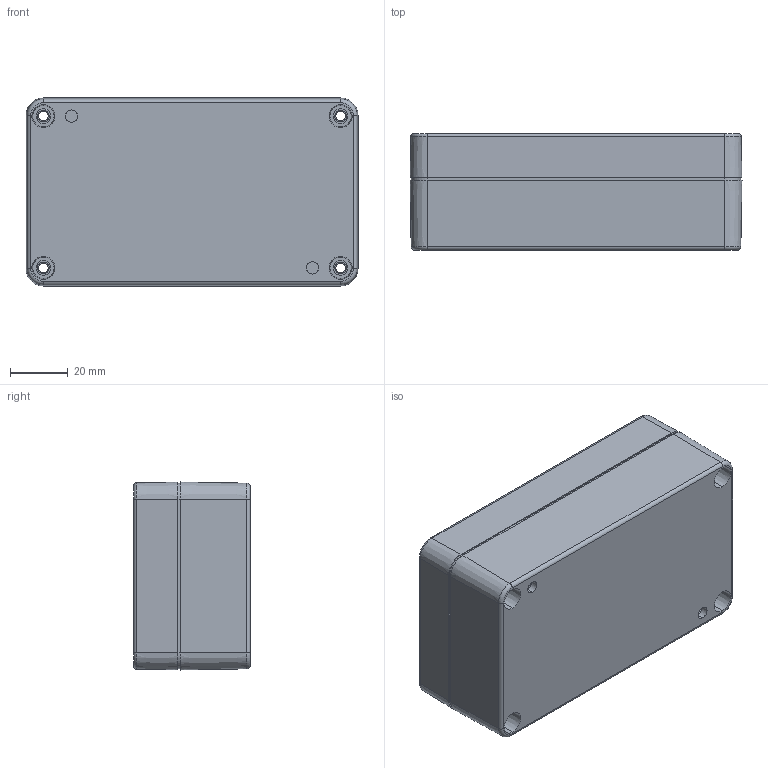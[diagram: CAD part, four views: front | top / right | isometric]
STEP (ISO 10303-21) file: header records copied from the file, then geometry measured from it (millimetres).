
FILE_DESCRIPTION (( 'STEP AP203' ), '1' );
FILE_NAME ('PE210.STEP', '2019-12-28T05:07:13', ( '' ), ( '' ), 'SwSTEP 2.0', 'SolidWorks 2020', '' );
FILE_SCHEMA (( 'CONFIG_CONTROL_DESIGN' ));
Length unit declared in the file: millimetre
Products named in the file (4): PE210
Assembly tree (3 placements, depth 2):
  PE210
    PE210
    PE210
    PE210
Bounding box: 115.07 x 40.4 x 65.17 mm (x, y, z)
Volume: 98446.8 mm3; surface area: 77813.1 mm2
Topology: 11 solids, 11 shells, 1263 faces, 3330 edges, 2155 vertices
Faces by surface type: bspline 498, cylinder 328, plane 280, cone 149, torus 8
Entity records: 45713 total; most frequent: CARTESIAN_POINT 16938, ORIENTED_EDGE 6660, DIRECTION 4905, EDGE_CURVE 3330, VERTEX_POINT 2155, AXIS2_PLACEMENT_3D 1740, LINE 1425, VECTOR 1425
